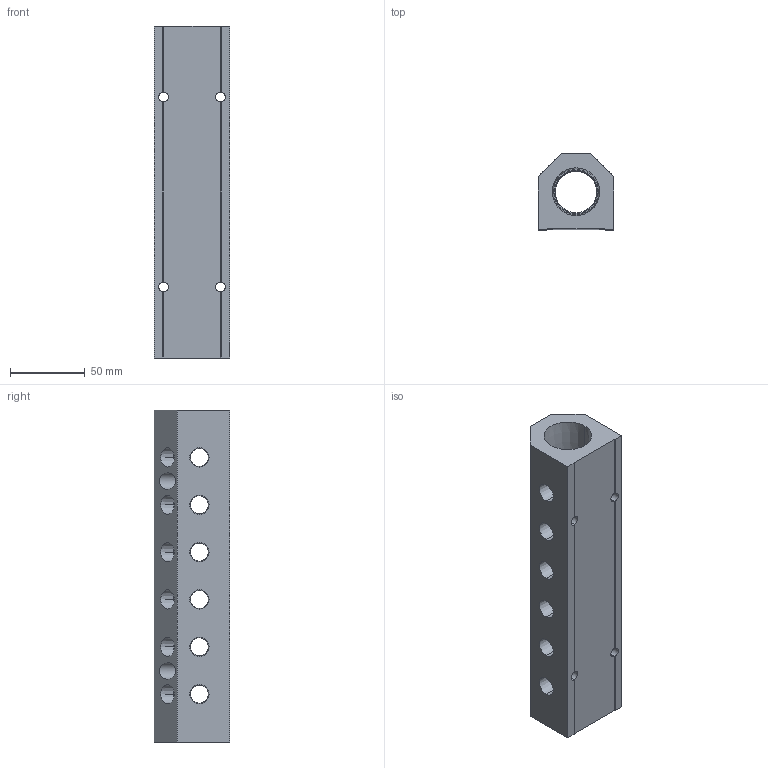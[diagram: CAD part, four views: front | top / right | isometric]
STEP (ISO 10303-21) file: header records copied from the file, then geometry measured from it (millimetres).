
FILE_DESCRIPTION (( 'STEP AP214' ), '1' );
FILE_NAME ('ALM6ABCDE-N4N16-222B.STEP', '2023-11-02T06:36:21', ( '' ), ( '' ), 'SwSTEP 2.0', 'SolidWorks 2020', '' );
FILE_SCHEMA (( 'AUTOMOTIVE_DESIGN' ));
Length unit declared in the file: millimetre
Products named in the file (1): ALM6ABCDE-N4N16-222B
Bounding box: 50.8 x 50.8 x 222 mm (x, y, z)
Volume: 319953.7 mm3; surface area: 74925.9 mm2
Topology: 1 solids, 1 shells, 400 faces, 1100 edges, 728 vertices
Faces by surface type: plane 238, bspline 72, cone 68, cylinder 22
Entity records: 23395 total; most frequent: CARTESIAN_POINT 9899, ORIENTED_EDGE 2200, DIRECTION 1618, EDGE_CURVE 1100, VECTOR 752, LINE 752, VERTEX_POINT 728, EDGE_LOOP 496
